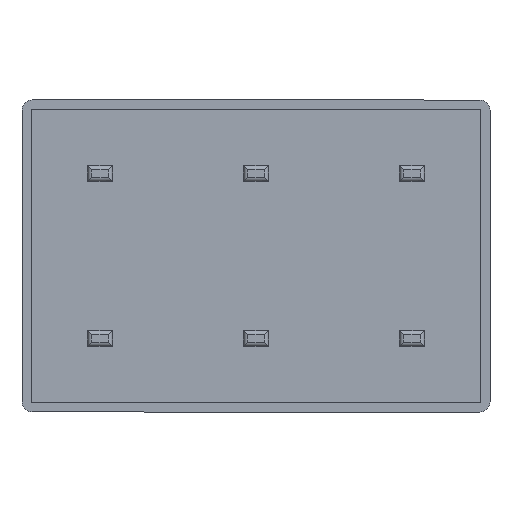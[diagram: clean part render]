
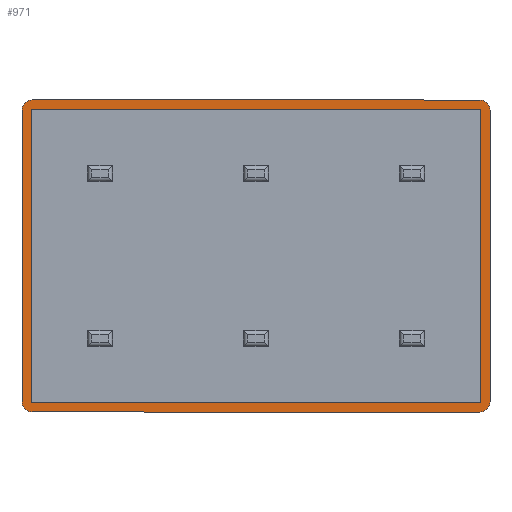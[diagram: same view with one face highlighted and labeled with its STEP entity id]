
A CAD part, front view. The second image highlights one B-rep face of the part: STEP entity #971.
In plain terms, the highlighted planar face has unit normal (0, -1, 0).
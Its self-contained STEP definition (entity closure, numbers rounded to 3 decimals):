
#6 = VERTEX_POINT ( 'NONE', #135 ) ;
#53 = DIRECTION ( 'NONE',  ( 0., 0., 1. ) ) ;
#82 = EDGE_CURVE ( 'NONE', #1706, #1441, #1941, .T. ) ;
#90 = CARTESIAN_POINT ( 'NONE',  ( -43., -1.5, -30. ) ) ;
#92 = CARTESIAN_POINT ( 'NONE',  ( -43.2, -1.5, 28. ) ) ;
#107 = DIRECTION ( 'NONE',  ( -1., 0., 0. ) ) ;
#135 = CARTESIAN_POINT ( 'NONE',  ( -45., -1.5, 28. ) ) ;
#139 = VERTEX_POINT ( 'NONE', #820 ) ;
#145 = VERTEX_POINT ( 'NONE', #2222 ) ;
#168 = EDGE_CURVE ( 'NONE', #1213, #1814, #1066, .T. ) ;
#179 = CIRCLE ( 'NONE', #984, 2. ) ;
#185 = VERTEX_POINT ( 'NONE', #478 ) ;
#200 = FACE_BOUND ( 'NONE', #664, .T. ) ;
#201 = VERTEX_POINT ( 'NONE', #1709 ) ;
#226 = CARTESIAN_POINT ( 'NONE',  ( 43., -1.5, 30. ) ) ;
#234 = VERTEX_POINT ( 'NONE', #330 ) ;
#280 = CARTESIAN_POINT ( 'NONE',  ( 45., -1.5, 28. ) ) ;
#320 = VECTOR ( 'NONE', #107, 1000. ) ;
#330 = CARTESIAN_POINT ( 'NONE',  ( -43.2, -1.5, 28. ) ) ;
#380 = EDGE_CURVE ( 'NONE', #201, #930, #1451, .T. ) ;
#408 = DIRECTION ( 'NONE',  ( 0., 1., 0. ) ) ;
#475 = CARTESIAN_POINT ( 'NONE',  ( -43., -1.5, 30. ) ) ;
#478 = CARTESIAN_POINT ( 'NONE',  ( -43.2, -1.5, -28. ) ) ;
#489 = VERTEX_POINT ( 'NONE', #280 ) ;
#494 = ORIENTED_EDGE ( 'NONE', *, *, #1321, .F. ) ;
#508 = CARTESIAN_POINT ( 'NONE',  ( 43., -1.5, 28. ) ) ;
#511 = EDGE_CURVE ( 'NONE', #1314, #139, #778, .T. ) ;
#519 = DIRECTION ( 'NONE',  ( 0., -1., 0. ) ) ;
#537 = AXIS2_PLACEMENT_3D ( 'NONE', #1787, #755, #1971 ) ;
#616 = ORIENTED_EDGE ( 'NONE', *, *, #1791, .F. ) ;
#630 = LINE ( 'NONE', #92, #1512 ) ;
#654 = DIRECTION ( 'NONE',  ( 0., 0., -1. ) ) ;
#664 = EDGE_LOOP ( 'NONE', ( #1752, #2093, #786, #616, #1938, #1880, #1225, #1168 ) ) ;
#680 = VERTEX_POINT ( 'NONE', #733 ) ;
#683 = CARTESIAN_POINT ( 'NONE',  ( 43.2, -1.5, -28. ) ) ;
#691 = DIRECTION ( 'NONE',  ( 0., 0., 1. ) ) ;
#694 = VERTEX_POINT ( 'NONE', #1240 ) ;
#698 = AXIS2_PLACEMENT_3D ( 'NONE', #2077, #1023, #2246 ) ;
#699 = CARTESIAN_POINT ( 'NONE',  ( -43., -1.5, -30. ) ) ;
#701 = VECTOR ( 'NONE', #916, 1000. ) ;
#706 = AXIS2_PLACEMENT_3D ( 'NONE', #826, #2054, #996 ) ;
#733 = CARTESIAN_POINT ( 'NONE',  ( -45., -1.5, -28. ) ) ;
#750 = CARTESIAN_POINT ( 'NONE',  ( -43., -1.5, -28.2 ) ) ;
#755 = DIRECTION ( 'NONE',  ( 0., -1., 0. ) ) ;
#778 = LINE ( 'NONE', #1325, #320 ) ;
#786 = ORIENTED_EDGE ( 'NONE', *, *, #511, .F. ) ;
#789 = ORIENTED_EDGE ( 'NONE', *, *, #2040, .F. ) ;
#791 = EDGE_CURVE ( 'NONE', #234, #185, #630, .T. ) ;
#820 = CARTESIAN_POINT ( 'NONE',  ( -43., -1.5, 28.2 ) ) ;
#826 = CARTESIAN_POINT ( 'NONE',  ( -43., -1.5, 28. ) ) ;
#836 = DIRECTION ( 'NONE',  ( 0., 1., 0. ) ) ;
#850 = EDGE_CURVE ( 'NONE', #489, #1213, #2280, .T. ) ;
#888 = EDGE_LOOP ( 'NONE', ( #494, #789, #1296, #999, #2143, #1623, #1576, #988 ) ) ;
#903 = EDGE_CURVE ( 'NONE', #185, #694, #2166, .T. ) ;
#916 = DIRECTION ( 'NONE',  ( 1., 0., 0. ) ) ;
#921 = AXIS2_PLACEMENT_3D ( 'NONE', #2069, #1008, #2238 ) ;
#930 = VERTEX_POINT ( 'NONE', #683 ) ;
#960 = EDGE_CURVE ( 'NONE', #1441, #489, #1180, .T. ) ;
#971 = ADVANCED_FACE ( 'NONE', ( #200, #1074 ), #2092, .F. ) ;
#984 = AXIS2_PLACEMENT_3D ( 'NONE', #1453, #408, #1636 ) ;
#988 = ORIENTED_EDGE ( 'NONE', *, *, #2116, .F. ) ;
#996 = DIRECTION ( 'NONE',  ( 0., 0., -1. ) ) ;
#999 = ORIENTED_EDGE ( 'NONE', *, *, #850, .F. ) ;
#1002 = CARTESIAN_POINT ( 'NONE',  ( 43., -1.5, 28.2 ) ) ;
#1008 = DIRECTION ( 'NONE',  ( 0., 1., 0. ) ) ;
#1023 = DIRECTION ( 'NONE',  ( 0., -1., 0. ) ) ;
#1066 = CIRCLE ( 'NONE', #921, 2. ) ;
#1074 = FACE_OUTER_BOUND ( 'NONE', #888, .T. ) ;
#1092 = VECTOR ( 'NONE', #53, 1000. ) ;
#1101 = CIRCLE ( 'NONE', #1461, 0.2 ) ;
#1107 = EDGE_CURVE ( 'NONE', #6, #1706, #179, .T. ) ;
#1141 = LINE ( 'NONE', #1982, #1092 ) ;
#1168 = ORIENTED_EDGE ( 'NONE', *, *, #903, .F. ) ;
#1180 = CIRCLE ( 'NONE', #1387, 2. ) ;
#1196 = DIRECTION ( 'NONE',  ( 1., 0., 0. ) ) ;
#1212 = DIRECTION ( 'NONE',  ( 0., 0., 1. ) ) ;
#1213 = VERTEX_POINT ( 'NONE', #2021 ) ;
#1220 = CARTESIAN_POINT ( 'NONE',  ( 43., -1.5, -30. ) ) ;
#1225 = ORIENTED_EDGE ( 'NONE', *, *, #1429, .F. ) ;
#1240 = CARTESIAN_POINT ( 'NONE',  ( -43., -1.5, -28.2 ) ) ;
#1255 = LINE ( 'NONE', #750, #701 ) ;
#1295 = CARTESIAN_POINT ( 'NONE',  ( -45., -1.5, 28. ) ) ;
#1296 = ORIENTED_EDGE ( 'NONE', *, *, #168, .F. ) ;
#1308 = DIRECTION ( 'NONE',  ( -1., 0., 0. ) ) ;
#1309 = DIRECTION ( 'NONE',  ( 0., 0., -1. ) ) ;
#1314 = VERTEX_POINT ( 'NONE', #1002 ) ;
#1321 = EDGE_CURVE ( 'NONE', #1771, #680, #1373, .T. ) ;
#1325 = CARTESIAN_POINT ( 'NONE',  ( -43., -1.5, 28.2 ) ) ;
#1361 = AXIS2_PLACEMENT_3D ( 'NONE', #1879, #836, #2072 ) ;
#1373 = CIRCLE ( 'NONE', #1361, 2. ) ;
#1387 = AXIS2_PLACEMENT_3D ( 'NONE', #508, #1737, #691 ) ;
#1429 = EDGE_CURVE ( 'NONE', #694, #201, #1255, .T. ) ;
#1432 = LINE ( 'NONE', #90, #1483 ) ;
#1441 = VERTEX_POINT ( 'NONE', #226 ) ;
#1451 = CIRCLE ( 'NONE', #537, 0.2 ) ;
#1453 = CARTESIAN_POINT ( 'NONE',  ( -43., -1.5, 28. ) ) ;
#1461 = AXIS2_PLACEMENT_3D ( 'NONE', #1578, #519, #1748 ) ;
#1464 = VECTOR ( 'NONE', #1196, 1000. ) ;
#1467 = EDGE_CURVE ( 'NONE', #930, #145, #1141, .T. ) ;
#1483 = VECTOR ( 'NONE', #1308, 1000. ) ;
#1512 = VECTOR ( 'NONE', #1309, 1000. ) ;
#1576 = ORIENTED_EDGE ( 'NONE', *, *, #1107, .F. ) ;
#1578 = CARTESIAN_POINT ( 'NONE',  ( 43., -1.5, 28. ) ) ;
#1611 = EDGE_CURVE ( 'NONE', #139, #234, #1919, .T. ) ;
#1623 = ORIENTED_EDGE ( 'NONE', *, *, #82, .F. ) ;
#1636 = DIRECTION ( 'NONE',  ( 0., 0., 1. ) ) ;
#1658 = DIRECTION ( 'NONE',  ( 0., 0., 1. ) ) ;
#1687 = VECTOR ( 'NONE', #1658, 1000. ) ;
#1699 = CARTESIAN_POINT ( 'NONE',  ( 45., -1.5, 28. ) ) ;
#1700 = CARTESIAN_POINT ( 'NONE',  ( -43., -1.5, 30. ) ) ;
#1706 = VERTEX_POINT ( 'NONE', #475 ) ;
#1709 = CARTESIAN_POINT ( 'NONE',  ( 43., -1.5, -28.2 ) ) ;
#1737 = DIRECTION ( 'NONE',  ( 0., 1., 0. ) ) ;
#1747 = AXIS2_PLACEMENT_3D ( 'NONE', #1909, #2263, #1212 ) ;
#1748 = DIRECTION ( 'NONE',  ( 0., 0., -1. ) ) ;
#1752 = ORIENTED_EDGE ( 'NONE', *, *, #791, .F. ) ;
#1771 = VERTEX_POINT ( 'NONE', #699 ) ;
#1787 = CARTESIAN_POINT ( 'NONE',  ( 43., -1.5, -28. ) ) ;
#1791 = EDGE_CURVE ( 'NONE', #145, #1314, #1101, .T. ) ;
#1814 = VERTEX_POINT ( 'NONE', #1220 ) ;
#1859 = VECTOR ( 'NONE', #654, 1000. ) ;
#1879 = CARTESIAN_POINT ( 'NONE',  ( -43., -1.5, -28. ) ) ;
#1880 = ORIENTED_EDGE ( 'NONE', *, *, #380, .F. ) ;
#1909 = CARTESIAN_POINT ( 'NONE',  ( -43., -1.5, -28. ) ) ;
#1919 = CIRCLE ( 'NONE', #706, 0.2 ) ;
#1938 = ORIENTED_EDGE ( 'NONE', *, *, #1467, .F. ) ;
#1941 = LINE ( 'NONE', #1700, #1464 ) ;
#1971 = DIRECTION ( 'NONE',  ( 0., 0., -1. ) ) ;
#1982 = CARTESIAN_POINT ( 'NONE',  ( 43.2, -1.5, 28. ) ) ;
#2021 = CARTESIAN_POINT ( 'NONE',  ( 45., -1.5, -28. ) ) ;
#2040 = EDGE_CURVE ( 'NONE', #1814, #1771, #1432, .T. ) ;
#2054 = DIRECTION ( 'NONE',  ( 0., -1., 0. ) ) ;
#2069 = CARTESIAN_POINT ( 'NONE',  ( 43., -1.5, -28. ) ) ;
#2072 = DIRECTION ( 'NONE',  ( 0., 0., 1. ) ) ;
#2077 = CARTESIAN_POINT ( 'NONE',  ( -43., -1.5, -28. ) ) ;
#2092 = PLANE ( 'NONE',  #1747 ) ;
#2093 = ORIENTED_EDGE ( 'NONE', *, *, #1611, .F. ) ;
#2116 = EDGE_CURVE ( 'NONE', #680, #6, #2153, .T. ) ;
#2143 = ORIENTED_EDGE ( 'NONE', *, *, #960, .F. ) ;
#2153 = LINE ( 'NONE', #1295, #1687 ) ;
#2166 = CIRCLE ( 'NONE', #698, 0.2 ) ;
#2222 = CARTESIAN_POINT ( 'NONE',  ( 43.2, -1.5, 28. ) ) ;
#2238 = DIRECTION ( 'NONE',  ( 0., 0., 1. ) ) ;
#2246 = DIRECTION ( 'NONE',  ( 0., 0., -1. ) ) ;
#2263 = DIRECTION ( 'NONE',  ( 0., 1., 0. ) ) ;
#2280 = LINE ( 'NONE', #1699, #1859 ) ;
